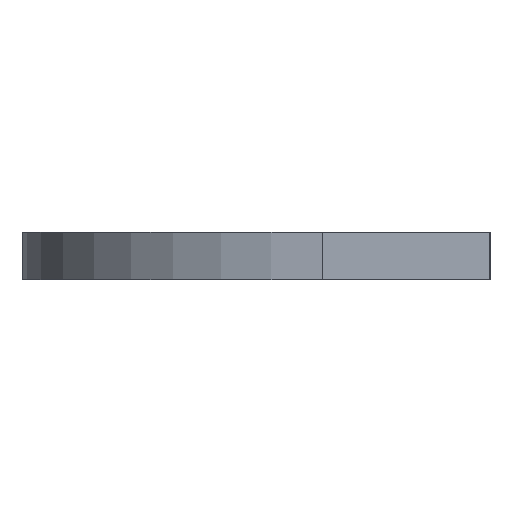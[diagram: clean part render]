
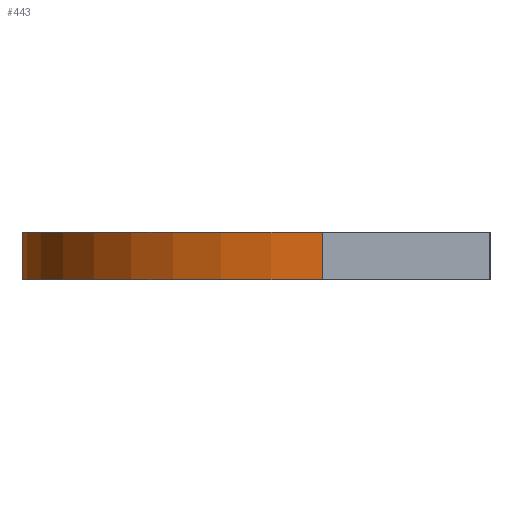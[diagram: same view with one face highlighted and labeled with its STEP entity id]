
A CAD part, left-side view. The second image highlights one B-rep face of the part: STEP entity #443.
In plain terms, the highlighted cylindrical face has radius 114.308 mm (diameter 228.615 mm), a partial arc.
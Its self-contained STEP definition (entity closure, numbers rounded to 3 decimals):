
#41 = LINE ( 'NONE', #447, #1488 ) ;
#51 = CARTESIAN_POINT ( 'NONE',  ( 557.238, -470.687, 18. ) ) ;
#54 = CARTESIAN_POINT ( 'NONE',  ( 442.931, -470.687, 18. ) ) ;
#87 = CYLINDRICAL_SURFACE ( 'NONE', #948, 114.307 ) ;
#139 = ORIENTED_EDGE ( 'NONE', *, *, #309, .F. ) ;
#168 = FACE_OUTER_BOUND ( 'NONE', #1923, .T. ) ;
#172 = DIRECTION ( 'NONE',  ( 0., 0., -1. ) ) ;
#193 = LINE ( 'NONE', #54, #1461 ) ;
#309 = EDGE_CURVE ( 'NONE', #727, #482, #1853, .T. ) ;
#311 = AXIS2_PLACEMENT_3D ( 'NONE', #1920, #844, #2015 ) ;
#337 = CARTESIAN_POINT ( 'NONE',  ( 555.931, -356.387, 0. ) ) ;
#438 = CARTESIAN_POINT ( 'NONE',  ( 557.238, -470.687, 0. ) ) ;
#443 = ADVANCED_FACE ( 'NONE', ( #168 ), #87, .T. ) ;
#447 = CARTESIAN_POINT ( 'NONE',  ( 555.931, -356.387, 18. ) ) ;
#482 = VERTEX_POINT ( 'NONE', #1534 ) ;
#546 = ORIENTED_EDGE ( 'NONE', *, *, #1812, .T. ) ;
#685 = VERTEX_POINT ( 'NONE', #1673 ) ;
#704 = DIRECTION ( 'NONE',  ( 0., 0., -1. ) ) ;
#727 = VERTEX_POINT ( 'NONE', #1405 ) ;
#796 = ORIENTED_EDGE ( 'NONE', *, *, #1530, .T. ) ;
#844 = DIRECTION ( 'NONE',  ( 0., 0., 1. ) ) ;
#948 = AXIS2_PLACEMENT_3D ( 'NONE', #51, #704, #1205 ) ;
#979 = DIRECTION ( 'NONE',  ( 0., 0., -1. ) ) ;
#1033 = DIRECTION ( 'NONE',  ( 0., 0., 1. ) ) ;
#1092 = DIRECTION ( 'NONE',  ( -1., 0., 0. ) ) ;
#1099 = AXIS2_PLACEMENT_3D ( 'NONE', #438, #1033, #1092 ) ;
#1205 = DIRECTION ( 'NONE',  ( -1., 0., 0. ) ) ;
#1405 = CARTESIAN_POINT ( 'NONE',  ( 555.931, -356.387, 18. ) ) ;
#1461 = VECTOR ( 'NONE', #979, 1000. ) ;
#1488 = VECTOR ( 'NONE', #172, 1000. ) ;
#1530 = EDGE_CURVE ( 'NONE', #727, #2020, #41, .T. ) ;
#1534 = CARTESIAN_POINT ( 'NONE',  ( 442.931, -470.687, 18. ) ) ;
#1637 = CIRCLE ( 'NONE', #1099, 114.307 ) ;
#1673 = CARTESIAN_POINT ( 'NONE',  ( 442.931, -470.687, 0. ) ) ;
#1802 = ORIENTED_EDGE ( 'NONE', *, *, #2113, .F. ) ;
#1812 = EDGE_CURVE ( 'NONE', #2020, #685, #1637, .T. ) ;
#1853 = CIRCLE ( 'NONE', #311, 114.307 ) ;
#1920 = CARTESIAN_POINT ( 'NONE',  ( 557.238, -470.687, 18. ) ) ;
#1923 = EDGE_LOOP ( 'NONE', ( #546, #1802, #139, #796 ) ) ;
#2015 = DIRECTION ( 'NONE',  ( -1., 0., 0. ) ) ;
#2020 = VERTEX_POINT ( 'NONE', #337 ) ;
#2113 = EDGE_CURVE ( 'NONE', #482, #685, #193, .T. ) ;
